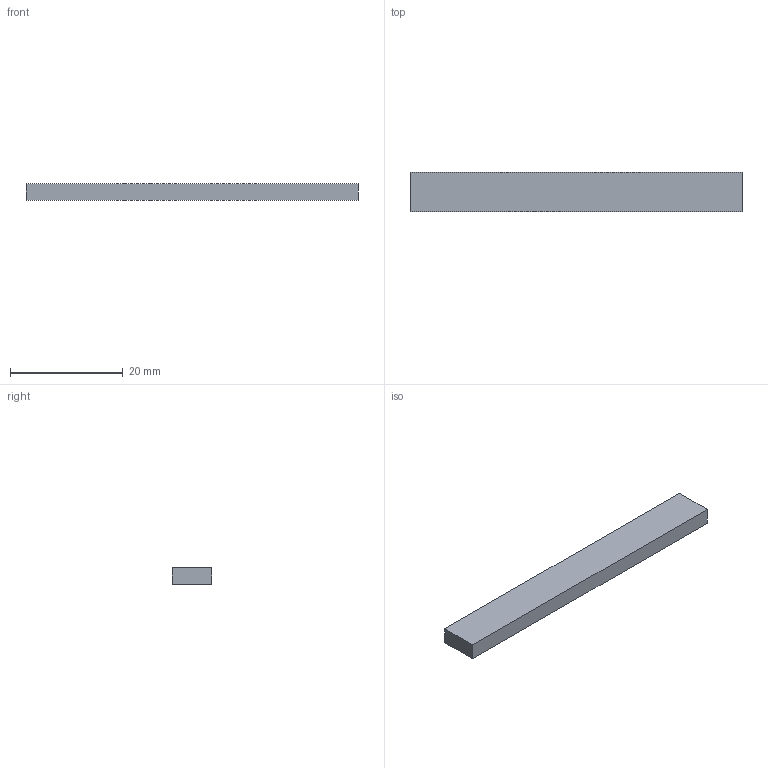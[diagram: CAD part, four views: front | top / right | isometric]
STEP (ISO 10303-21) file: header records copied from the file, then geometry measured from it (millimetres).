
FILE_DESCRIPTION(('Open CASCADE Model'),'2;1');
FILE_NAME('Open CASCADE Shape Model','2026-10-04T02:31:41',('Author'),( 'Open CASCADE'),'Open CASCADE STEP processor 8.0','Open CASCADE 8.0' ,'Unknown');
FILE_SCHEMA(('AUTOMOTIVE_DESIGN { 1 0 10303 214 1 1 1 1 }'));
Length unit declared in the file: millimetre
Products named in the file (1): Open CASCADE STEP translator 8.0 223
Bounding box: 58.8 x 7 x 3 mm (x, y, z)
Volume: 1234.8 mm3; surface area: 1218 mm2
Topology: 1 solids, 1 shells, 6 faces, 12 edges, 8 vertices
Faces by surface type: plane 6
Entity records: 322 total; most frequent: CARTESIAN_POINT 51, DIRECTION 50, LINE 36, VECTOR 36, ORIENTED_EDGE 24, PCURVE 24, DEFINITIONAL_REPRESENTATION 24, EDGE_CURVE 12
